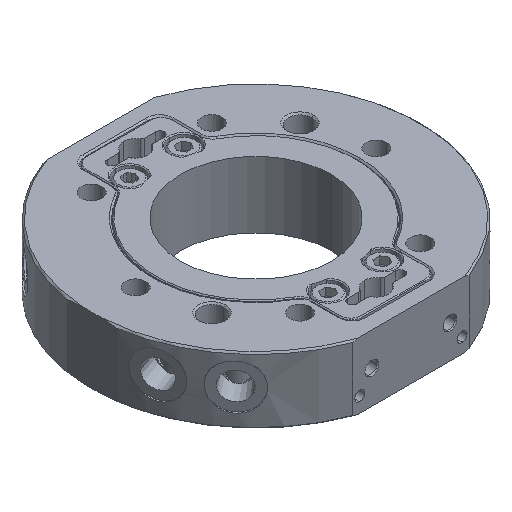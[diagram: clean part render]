
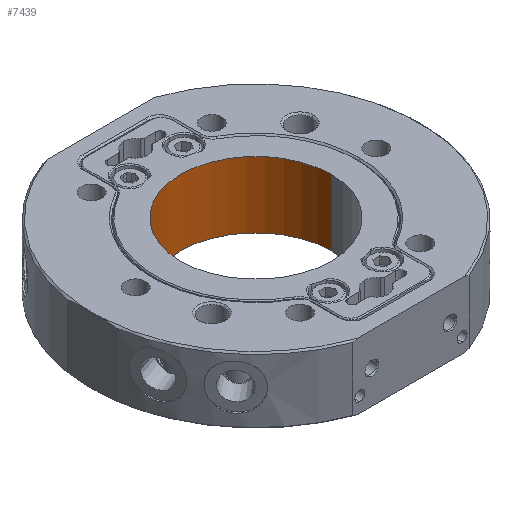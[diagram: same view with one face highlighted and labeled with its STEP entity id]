
A CAD part, isometric view. The second image highlights one B-rep face of the part: STEP entity #7439.
In plain terms, the highlighted cylindrical face has radius 25 mm (diameter 50 mm), a partial arc.
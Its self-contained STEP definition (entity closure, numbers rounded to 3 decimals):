
#94 = AXIS2_PLACEMENT_3D ( 'NONE', #20903, #22974, #15942 ) ;
#1309 = DIRECTION ( 'NONE',  ( 0., 0., -1. ) ) ;
#3867 = CARTESIAN_POINT ( 'NONE',  ( 25., 0., 106.853 ) ) ;
#4907 = DIRECTION ( 'NONE',  ( -1., 0., 0. ) ) ;
#5106 = ORIENTED_EDGE ( 'NONE', *, *, #17251, .T. ) ;
#5202 = ORIENTED_EDGE ( 'NONE', *, *, #18862, .F. ) ;
#5980 = ORIENTED_EDGE ( 'NONE', *, *, #16233, .F. ) ;
#6294 = CARTESIAN_POINT ( 'NONE',  ( -25., 0., 0. ) ) ;
#6296 = ORIENTED_EDGE ( 'NONE', *, *, #13221, .T. ) ;
#7248 = LINE ( 'NONE', #3867, #17831 ) ;
#7439 = ADVANCED_FACE ( 'NONE', ( #20433 ), #15433, .F. ) ;
#7666 = CIRCLE ( 'NONE', #14361, 25. ) ;
#7675 = AXIS2_PLACEMENT_3D ( 'NONE', #15467, #10197, #4907 ) ;
#8183 = VERTEX_POINT ( 'NONE', #16899 ) ;
#8502 = LINE ( 'NONE', #18868, #22140 ) ;
#8685 = EDGE_LOOP ( 'NONE', ( #5980, #5202, #5106, #6296 ) ) ;
#10197 = DIRECTION ( 'NONE',  ( 0., 0., -1. ) ) ;
#10314 = VERTEX_POINT ( 'NONE', #6294 ) ;
#12040 = DIRECTION ( 'NONE',  ( -1., 0., 0. ) ) ;
#12873 = CARTESIAN_POINT ( 'NONE',  ( -25., 0., 22. ) ) ;
#13221 = EDGE_CURVE ( 'NONE', #10314, #8183, #7666, .T. ) ;
#14361 = AXIS2_PLACEMENT_3D ( 'NONE', #21021, #1309, #12040 ) ;
#15433 = CYLINDRICAL_SURFACE ( 'NONE', #7675, 25. ) ;
#15467 = CARTESIAN_POINT ( 'NONE',  ( 0., 0., 106.853 ) ) ;
#15942 = DIRECTION ( 'NONE',  ( 1., 0., 0. ) ) ;
#16211 = VERTEX_POINT ( 'NONE', #12873 ) ;
#16233 = EDGE_CURVE ( 'NONE', #22645, #8183, #7248, .T. ) ;
#16899 = CARTESIAN_POINT ( 'NONE',  ( 25., 0., 0. ) ) ;
#16938 = DIRECTION ( 'NONE',  ( 0., 0., -1. ) ) ;
#17251 = EDGE_CURVE ( 'NONE', #16211, #10314, #8502, .T. ) ;
#17538 = DIRECTION ( 'NONE',  ( 0., 0., -1. ) ) ;
#17831 = VECTOR ( 'NONE', #17538, 1000. ) ;
#18862 = EDGE_CURVE ( 'NONE', #16211, #22645, #22604, .T. ) ;
#18868 = CARTESIAN_POINT ( 'NONE',  ( -25., 0., 106.853 ) ) ;
#20433 = FACE_OUTER_BOUND ( 'NONE', #8685, .T. ) ;
#20718 = CARTESIAN_POINT ( 'NONE',  ( 25., 0., 22. ) ) ;
#20903 = CARTESIAN_POINT ( 'NONE',  ( 0., 0., 22. ) ) ;
#21021 = CARTESIAN_POINT ( 'NONE',  ( 0., 0., 0. ) ) ;
#22140 = VECTOR ( 'NONE', #16938, 1000. ) ;
#22604 = CIRCLE ( 'NONE', #94, 25. ) ;
#22645 = VERTEX_POINT ( 'NONE', #20718 ) ;
#22974 = DIRECTION ( 'NONE',  ( 0., 0., -1. ) ) ;
